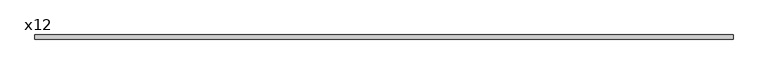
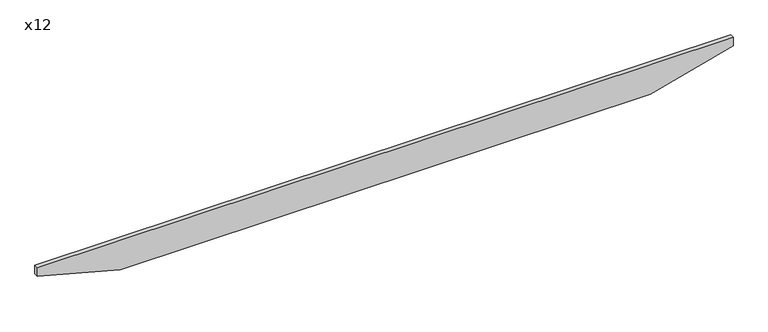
"""IFC4 building model written with IfcOpenShell, lengths in millimetres: beam geometry, Notched Beam : x12."""

from ifc_helpers import new_model, si_unit, frame, origin, place, context, project, spatial, polyline, outline, extrude, source, transform, mapped, element, save


def x12_f6597e7e(model_context):
    return source(origin(), model_context, "Body", "SweptSolid", [
        extrude(outline(polyline([(142.875, -3120.5711209), (60.325, -3120.5711209), (-142.875, -2358.5711209), (-142.875, 2518.2288791), (60.325, 3280.2288791), (142.875, 3280.2288791), (142.875, -3120.5711209)])), frame((0.0, -19.05, 0.0), z_axis=(0.0, 1.0, 0.0), x_axis=(0.0, 0.0, 1.0)), (0.0, 0.0, 1.0), 38.1),
    ])


if __name__ == "__main__":
    model = new_model("IFC4")
    model_context = context("Model", 3, world=origin())
    ifc_project = project(units=[si_unit("LENGTHUNIT", "METRE", prefix="MILLI")], contexts=[model_context])
    site = spatial("IfcSite", under=ifc_project)
    building = spatial("IfcBuilding", under=site)
    placement = place(None, origin())
    x12_shape = x12_f6597e7e(model_context)
    element("IfcBeam", 1, ObjectType="Notched Beam : x12", at=placement, inside=building, context=model_context, shape_type="MappedRepresentation", body=[
        mapped(x12_shape, transform((0.0, 0.0, 0.0), x_axis=(1.0, 0.0, 0.0), y_axis=(0.0, 1.0, 0.0), z_axis=(0.0, 0.0, 1.0))),
    ])
    save(model, "model.ifc")
